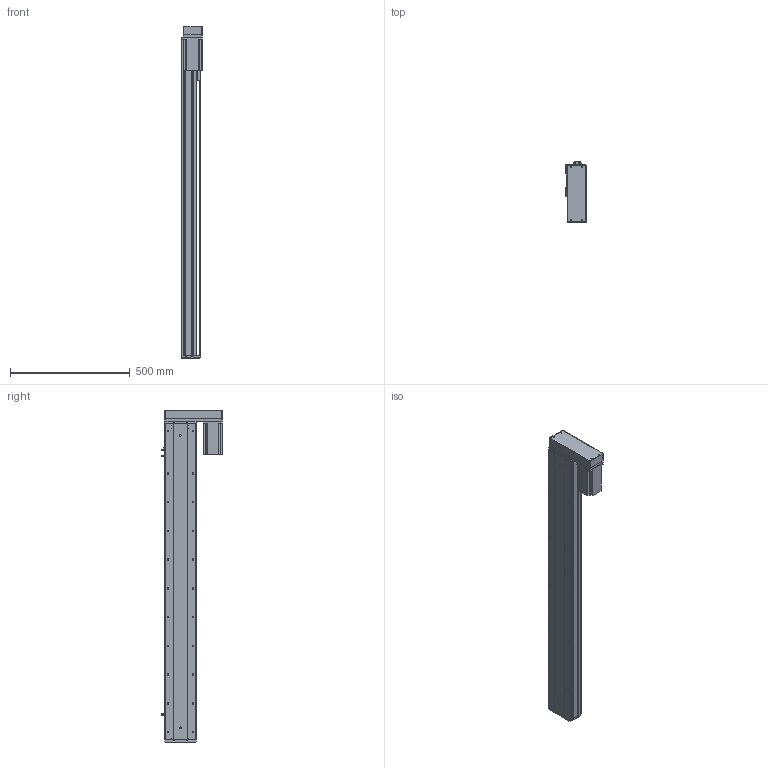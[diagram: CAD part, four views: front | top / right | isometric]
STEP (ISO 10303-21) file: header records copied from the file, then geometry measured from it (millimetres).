
FILE_DESCRIPTION (( 'STEP AP214' ), '1' );
FILE_NAME ('KSD130-P2010-S1100-MR-CM.STEP', '2019-09-17T08:53:43', ( '微软用户' ), ( '微软中国' ), 'SwSTEP 2.0', 'SolidWorks 2014', '' );
FILE_SCHEMA (( 'AUTOMOTIVE_DESIGN' ));
Length unit declared in the file: millimetre
Products named in the file (11): 130宽模组保护罩左右折; 台达ECMA－C20807AS伺服电机; 130宽模组马达安装板连板左右折丝杆; U倰嫖萇EEㄜSX672; 覜茼え100遵圉猾敕; 130宽盖板半封闭丝杠-1100行程; 130宽滚珠丝杆安装板半封闭-20丝杠; 130宽马达安装板半封闭; 130遵傷裔圉猾敕; 130宽底板半封闭丝杠-1100行程; KSD130-P2010-S1100-MR-CM
Assembly tree (12 placements, depth 2):
  KSD130-P2010-S1100-MR-CM
    130宽底板半封闭丝杠-1100行程
    130遵傷裔圉猾敕
    130宽马达安装板半封闭
    130宽滚珠丝杆安装板半封闭-20丝杠
    130宽盖板半封闭丝杠-1100行程
    覜茼え100遵圉猾敕
    U倰嫖萇EEㄜSX672  x3
    130宽模组马达安装板连板左右折丝杆
    台达ECMA－C20807AS伺服电机
    130宽模组保护罩左右折
Bounding box: 85 x 253.7 x 1385.5 mm (x, y, z)
Volume: 5030624.6 mm3; surface area: 1410956.1 mm2
Topology: 13 solids, 13 shells, 1444 faces, 4101 edges, 2603 vertices
Faces by surface type: cylinder 703, plane 570, cone 171
Entity records: 48251 total; most frequent: CARTESIAN_POINT 9318, DIRECTION 7035, ORIENTED_EDGE 6826, EDGE_CURVE 3413, AXIS2_PLACEMENT_3D 2564, VERTEX_POINT 2227, LINE 1907, VECTOR 1907
